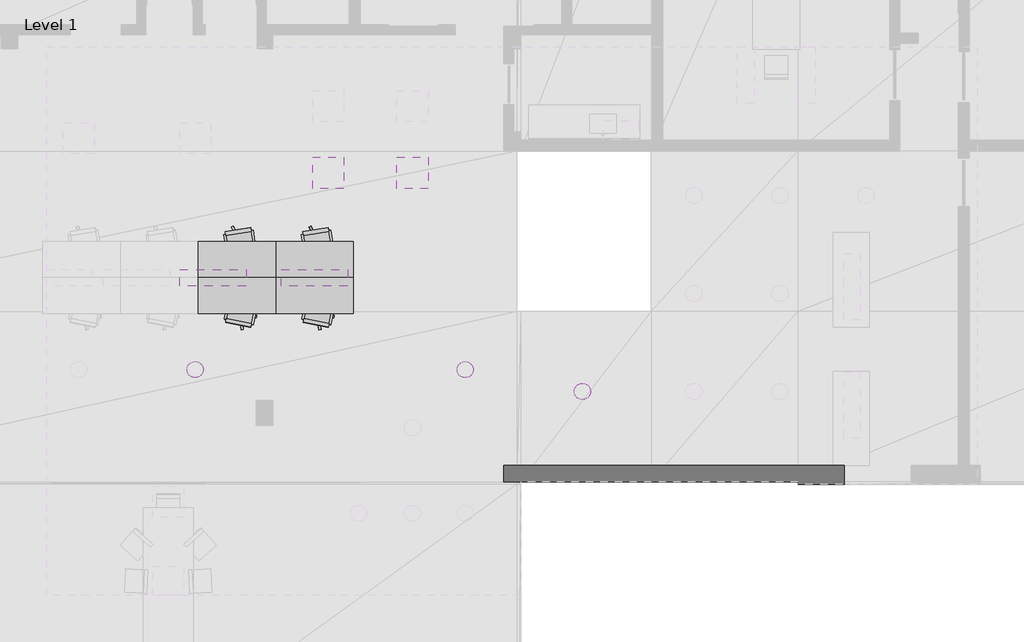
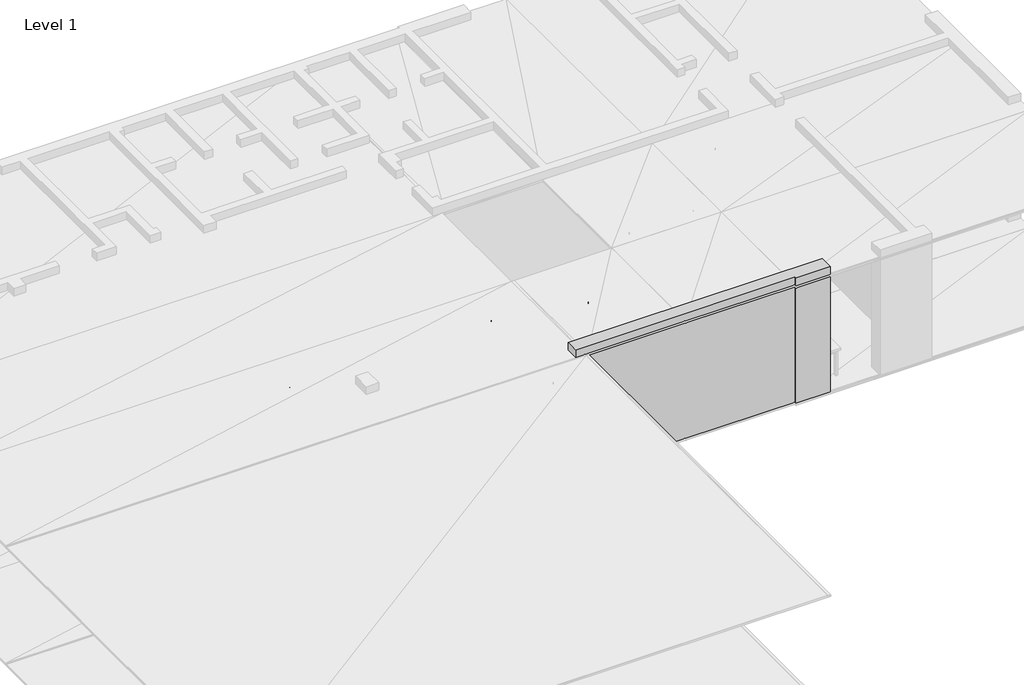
# One storey, part 9 of 14: 20 proxies.
"""IFC4 building model written with IfcOpenShell, lengths in millimetres."""

from ifc_helpers import new_model, si_unit, frame, origin, origin_with_axes, place, context, project, spatial, polyline, outline, extrude, element, save

model = new_model("IFC4")

# Units and contexts
model_context = context("Model", 3, world=origin())
ifc_project = project(units=[si_unit("LENGTHUNIT", "METRE", prefix="MILLI")], contexts=[model_context])

# Site, building, storey
site = spatial("IfcSite", under=ifc_project)
building = spatial("IfcBuilding", under=site)
storey = spatial("IfcBuildingStorey", under=building, Name="Level 1", Elevation=0.0)

# Proxies
placement = place(None, origin())
element("IfcBuildingElementProxy", 1, Name="Generic Models", at=placement, inside=storey, context=model_context, shape_type="SweptSolid", body=[
    extrude(outline(polyline([(9656.826019, 13859.130859), (9656.826019, 13209.131241), (8256.826401, 13209.131241), (8256.826401, 13859.130859), (9656.826019, 13859.130859)])), frame((0.0, 0.0, 709.999979), z_axis=(0.0, 0.0, 1.0), x_axis=(1.0, 0.0, 0.0)), (0.0, 0.0, 1.0), 40.000021),
])
element("IfcBuildingElementProxy", 2, Name="Generic Models", at=placement, inside=storey, context=model_context, shape_type="SweptSolid", body=[
    extrude(outline(polyline([(11056.825638, 13859.130859), (11056.825638, 13209.131241), (9656.826019, 13209.131241), (9656.826019, 13859.130859), (11056.825638, 13859.130859)])), frame((0.0, 0.0, 709.999979), z_axis=(0.0, 0.0, 1.0), x_axis=(1.0, 0.0, 0.0)), (0.0, 0.0, 1.0), 40.000021),
])
element("IfcBuildingElementProxy", 3, Name="Generic Models", at=placement, inside=storey, context=model_context, shape_type="SweptSolid", body=[
    extrude(outline(polyline([(9656.826019, 14509.131432), (9656.826019, 13859.130859), (8256.826401, 13859.130859), (8256.826401, 14509.131432), (9656.826019, 14509.131432)])), frame((0.0, 0.0, 709.999979), z_axis=(0.0, 0.0, 1.0), x_axis=(1.0, 0.0, 0.0)), (0.0, 0.0, 1.0), 40.000021),
])
element("IfcBuildingElementProxy", 4, Name="Generic Models", at=placement, inside=storey, context=model_context, shape_type="SweptSolid", body=[
    extrude(outline(polyline([(11056.825638, 14509.131432), (11056.825638, 13859.130859), (9656.826019, 13859.130859), (9656.826019, 14509.131432), (11056.825638, 14509.131432)])), frame((0.0, 0.0, 709.999979), z_axis=(0.0, 0.0, 1.0), x_axis=(1.0, 0.0, 0.0)), (0.0, 0.0, 1.0), 40.000021),
])
element("IfcBuildingElementProxy", 5, Name="Generic Models", at=placement, inside=storey, context=model_context, shape_type="SweptSolid", body=[
    extrude(outline(polyline([(19916.017532, 10470.000267), (19916.017532, 10130.000114), (19076.826096, 10130.000114), (19076.826096, 10170.000076), (13776.017189, 10170.000076), (13776.017189, 10470.000267), (19916.017532, 10470.000267)])), origin_with_axes(), (0.0, 0.0, 1.0), 3200.000048),
])
element("IfcBuildingElementProxy", 6, Name="Generic Models", at=placement, inside=storey, context=model_context, shape_type="SweptSolid", body=[
    extrude(outline(polyline([(9756.825447, 13709.131241), (9756.825447, 14009.130478), (10956.82621, 14009.130478), (10956.82621, 13709.131241), (9756.825447, 13709.131241)])), frame((0.0, 0.0, 2910.000086), z_axis=(0.0, 0.0, 1.0), x_axis=(1.0, 0.0, 0.0)), (0.0, 0.0, 1.0), 39.999962),
])
element("IfcBuildingElementProxy", 7, Name="Generic Models", at=placement, inside=storey, context=model_context, shape_type="SweptSolid", body=[
    extrude(outline(polyline([(7924.602985, 13709.131241), (7924.602985, 14009.130478), (9124.603271, 14009.130478), (9124.603271, 13709.131241), (7924.602985, 13709.131241)])), frame((0.0, 0.0, 2910.000086), z_axis=(0.0, 0.0, 1.0), x_axis=(1.0, 0.0, 0.0)), (0.0, 0.0, 1.0), 39.999962),
])
element("IfcBuildingElementProxy", 8, Name="Generic Models", at=placement, inside=storey, context=model_context, shape_type="SweptSolid", body=[
    extrude(outline(polyline([(10326.018333, 15470.383644), (10326.018333, 16030.384064), (10886.017799, 16030.384064), (10886.017799, 15470.383644), (10326.018333, 15470.383644)])), frame((0.0, 0.0, 2910.000086), z_axis=(0.0, 0.0, 1.0), x_axis=(1.0, 0.0, 0.0)), (0.0, 0.0, 1.0), 39.999962),
])
element("IfcBuildingElementProxy", 9, Name="Generic Models", at=placement, inside=storey, context=model_context, shape_type="SweptSolid", body=[
    extrude(outline(polyline([(11846.017838, 15470.383644), (11846.017838, 16030.384064), (12406.017303, 16030.384064), (12406.017303, 15470.383644), (11846.017838, 15470.383644)])), frame((0.0, 0.0, 2910.000086), z_axis=(0.0, 0.0, 1.0), x_axis=(1.0, 0.0, 0.0)), (0.0, 0.0, 1.0), 39.999962),
])
element("IfcBuildingElementProxy", 10, Name="Generic Models", at=placement, inside=storey, context=model_context, shape_type="SweptSolid", body=[
    extrude(outline(polyline([(15326.302528, 11748.607635), (15312.685013, 11723.13118), (15294.359207, 11700.800896), (15272.028923, 11682.47509), (15246.552467, 11668.857574), (15218.90831, 11660.471916), (15190.159798, 11657.640457), (15161.411285, 11660.471916), (15133.767128, 11668.857574), (15108.290672, 11682.47509), (15085.960388, 11700.800896), (15067.634583, 11723.13118), (15054.017067, 11748.607635), (15045.631409, 11776.251793), (15042.79995, 11805.000305), (15045.631409, 11833.748817), (15054.017067, 11861.392975), (15067.634583, 11886.869431), (15085.960388, 11909.199715), (15108.290672, 11927.52552), (15133.767128, 11941.143036), (15161.411285, 11949.528694), (15190.159798, 11952.360153), (15218.90831, 11949.528694), (15246.552467, 11941.143036), (15272.028923, 11927.52552), (15294.359207, 11909.199715), (15312.685013, 11886.869431), (15326.302528, 11861.392975), (15334.688187, 11833.748817), (15337.519646, 11805.000305), (15334.688187, 11776.251793), (15326.302528, 11748.607635)])), frame((0.0, 0.0, 2910.000086), z_axis=(0.0, 0.0, 1.0), x_axis=(1.0, 0.0, 0.0)), (0.0, 0.0, 1.0), 39.999962),
])
element("IfcBuildingElementProxy", 11, Name="Generic Models", at=placement, inside=storey, context=model_context, shape_type="SweptSolid", body=[
    extrude(outline(polyline([(13212.161064, 12143.173218), (13198.543549, 12117.696762), (13180.217743, 12095.366478), (13157.887459, 12077.040672), (13132.411003, 12063.423157), (13104.766846, 12055.037498), (13076.018333, 12052.206039), (13047.269821, 12055.037498), (13019.625664, 12063.423157), (12994.149208, 12077.040672), (12971.818924, 12095.366478), (12953.493118, 12117.696762), (12939.875603, 12143.173218), (12931.489944, 12170.817375), (12928.658485, 12199.565887), (12931.489944, 12228.3144), (12939.875603, 12255.958557), (12953.493118, 12281.435013), (12971.818924, 12303.765297), (12994.149208, 12322.091103), (13019.625664, 12335.708618), (13047.269821, 12344.094276), (13076.018333, 12346.925735), (13104.766846, 12344.094276), (13132.411003, 12335.708618), (13157.887459, 12322.091103), (13180.217743, 12303.765297), (13198.543549, 12281.435013), (13212.161064, 12255.958557), (13220.546722, 12228.3144), (13223.378181, 12199.565887), (13220.546722, 12170.817375), (13212.161064, 12143.173218)])), frame((0.0, 0.0, 2910.000086), z_axis=(0.0, 0.0, 1.0), x_axis=(1.0, 0.0, 0.0)), (0.0, 0.0, 1.0), 39.999962),
])
element("IfcBuildingElementProxy", 12, Name="Generic Models", at=placement, inside=storey, context=model_context, shape_type="SweptSolid", body=[
    extrude(outline(polyline([(8342.161179, 12143.173218), (8328.543663, 12117.696762), (8310.217857, 12095.366478), (8287.887573, 12077.040672), (8262.411118, 12063.423157), (8234.76696, 12055.037498), (8206.018448, 12052.206039), (8177.269936, 12055.037498), (8149.625778, 12063.423157), (8124.149323, 12077.040672), (8101.819038, 12095.366478), (8083.493233, 12117.696762), (8069.875717, 12143.173218), (8061.490059, 12170.817375), (8058.6586, 12199.565887), (8061.490059, 12228.3144), (8069.875717, 12255.958557), (8083.493233, 12281.435013), (8101.819038, 12303.765297), (8124.149323, 12322.091103), (8149.625778, 12335.708618), (8177.269936, 12344.094276), (8206.018448, 12346.925735), (8234.76696, 12344.094276), (8262.411118, 12335.708618), (8287.887573, 12322.091103), (8310.217857, 12303.765297), (8328.543663, 12281.435013), (8342.161179, 12255.958557), (8350.546837, 12228.3144), (8353.378296, 12199.565887), (8350.546837, 12170.817375), (8342.161179, 12143.173218)])), frame((0.0, 0.0, 2910.000086), z_axis=(0.0, 0.0, 1.0), x_axis=(1.0, 0.0, 0.0)), (0.0, 0.0, 1.0), 39.999962),
])
element("IfcBuildingElementProxy", 13, Name="Generic Models", at=placement, inside=storey, context=model_context, shape_type="SweptSolid", body=[
    extrude(outline(polyline([(9604.326248, 13284.13105), (9559.326172, 13284.13105), (9559.326172, 13784.13105), (9604.326248, 13784.13105), (9604.326248, 13284.13105)])), frame((0.0, 0.0, 639.999986), z_axis=(0.0, 0.0, 1.0), x_axis=(1.0, 0.0, 0.0)), (0.0, 0.0, 1.0), 69.999993),
    extrude(outline(polyline([(8354.326248, 13284.13105), (8309.326172, 13284.13105), (8309.326172, 13784.13105), (8354.326248, 13784.13105), (8354.326248, 13284.13105)])), frame((0.0, 0.0, 639.999986), z_axis=(0.0, 0.0, 1.0), x_axis=(1.0, 0.0, 0.0)), (0.0, 0.0, 1.0), 69.999993),
    extrude(outline(polyline([(8331.82621, 13761.631012), (8331.82621, 13806.631088), (9581.82621, 13806.631088), (9581.82621, 13761.631012), (8331.82621, 13761.631012)])), frame((0.0, 0.0, 639.999986), z_axis=(0.0, 0.0, 1.0), x_axis=(1.0, 0.0, 0.0)), (0.0, 0.0, 1.0), 69.999993),
    extrude(outline(polyline([(8331.82621, 13261.631012), (8331.82621, 13306.631088), (9581.82621, 13306.631088), (9581.82621, 13261.631012), (8331.82621, 13261.631012)])), frame((0.0, 0.0, 639.999986), z_axis=(0.0, 0.0, 1.0), x_axis=(1.0, 0.0, 0.0)), (0.0, 0.0, 1.0), 69.999993),
    extrude(outline(polyline([(9557.451248, 13759.756088), (9557.451248, 13808.506012), (9606.201172, 13808.506012), (9606.201172, 13759.756088), (9557.451248, 13759.756088)])), frame((0.0, 0.0, 50.000001), z_axis=(0.0, 0.0, 1.0), x_axis=(1.0, 0.0, 0.0)), (0.0, 0.0, 1.0), 659.999978),
    extrude(outline(polyline([(9557.451248, 13259.756088), (9557.451248, 13308.506012), (9606.201172, 13308.506012), (9606.201172, 13259.756088), (9557.451248, 13259.756088)])), frame((0.0, 0.0, 50.000001), z_axis=(0.0, 0.0, 1.0), x_axis=(1.0, 0.0, 0.0)), (0.0, 0.0, 1.0), 659.999978),
    extrude(outline(polyline([(8307.451248, 13759.756088), (8307.451248, 13808.506012), (8356.201172, 13808.506012), (8356.201172, 13759.756088), (8307.451248, 13759.756088)])), frame((0.0, 0.0, 50.000001), z_axis=(0.0, 0.0, 1.0), x_axis=(1.0, 0.0, 0.0)), (0.0, 0.0, 1.0), 659.999978),
    extrude(outline(polyline([(8307.451248, 13259.756088), (8307.451248, 13308.506012), (8356.201172, 13308.506012), (8356.201172, 13259.756088), (8307.451248, 13259.756088)])), frame((0.0, 0.0, 50.000001), z_axis=(0.0, 0.0, 1.0), x_axis=(1.0, 0.0, 0.0)), (0.0, 0.0, 1.0), 659.999978),
])
element("IfcBuildingElementProxy", 14, Name="Generic Models", at=placement, inside=storey, context=model_context, shape_type="SweptSolid", body=[
    extrude(outline(polyline([(11004.325867, 13284.13105), (10959.32579, 13284.13105), (10959.32579, 13784.13105), (11004.325867, 13784.13105), (11004.325867, 13284.13105)])), frame((0.0, 0.0, 639.999986), z_axis=(0.0, 0.0, 1.0), x_axis=(1.0, 0.0, 0.0)), (0.0, 0.0, 1.0), 69.999993),
    extrude(outline(polyline([(9754.325867, 13284.13105), (9709.32579, 13284.13105), (9709.32579, 13784.13105), (9754.325867, 13784.13105), (9754.325867, 13284.13105)])), frame((0.0, 0.0, 639.999986), z_axis=(0.0, 0.0, 1.0), x_axis=(1.0, 0.0, 0.0)), (0.0, 0.0, 1.0), 69.999993),
    extrude(outline(polyline([(9731.825829, 13761.631012), (9731.825829, 13806.631088), (10981.825829, 13806.631088), (10981.825829, 13761.631012), (9731.825829, 13761.631012)])), frame((0.0, 0.0, 639.999986), z_axis=(0.0, 0.0, 1.0), x_axis=(1.0, 0.0, 0.0)), (0.0, 0.0, 1.0), 69.999993),
    extrude(outline(polyline([(9731.825829, 13261.631012), (9731.825829, 13306.631088), (10981.825829, 13306.631088), (10981.825829, 13261.631012), (9731.825829, 13261.631012)])), frame((0.0, 0.0, 639.999986), z_axis=(0.0, 0.0, 1.0), x_axis=(1.0, 0.0, 0.0)), (0.0, 0.0, 1.0), 69.999993),
    extrude(outline(polyline([(10957.450867, 13759.756088), (10957.450867, 13808.506012), (11006.20079, 13808.506012), (11006.20079, 13759.756088), (10957.450867, 13759.756088)])), frame((0.0, 0.0, 50.000001), z_axis=(0.0, 0.0, 1.0), x_axis=(1.0, 0.0, 0.0)), (0.0, 0.0, 1.0), 659.999978),
    extrude(outline(polyline([(10957.450867, 13259.756088), (10957.450867, 13308.506012), (11006.20079, 13308.506012), (11006.20079, 13259.756088), (10957.450867, 13259.756088)])), frame((0.0, 0.0, 50.000001), z_axis=(0.0, 0.0, 1.0), x_axis=(1.0, 0.0, 0.0)), (0.0, 0.0, 1.0), 659.999978),
    extrude(outline(polyline([(9707.450867, 13759.756088), (9707.450867, 13808.506012), (9756.20079, 13808.506012), (9756.20079, 13759.756088), (9707.450867, 13759.756088)])), frame((0.0, 0.0, 50.000001), z_axis=(0.0, 0.0, 1.0), x_axis=(1.0, 0.0, 0.0)), (0.0, 0.0, 1.0), 659.999978),
    extrude(outline(polyline([(9707.450867, 13259.756088), (9707.450867, 13308.506012), (9756.20079, 13308.506012), (9756.20079, 13259.756088), (9707.450867, 13259.756088)])), frame((0.0, 0.0, 50.000001), z_axis=(0.0, 0.0, 1.0), x_axis=(1.0, 0.0, 0.0)), (0.0, 0.0, 1.0), 659.999978),
])
element("IfcBuildingElementProxy", 15, Name="Generic Models", at=placement, inside=storey, context=model_context, shape_type="SweptSolid", body=[
    extrude(outline(polyline([(9604.326248, 13934.130669), (9559.326172, 13934.130669), (9559.326172, 14434.131622), (9604.326248, 14434.131622), (9604.326248, 13934.130669)])), frame((0.0, 0.0, 639.999986), z_axis=(0.0, 0.0, 1.0), x_axis=(1.0, 0.0, 0.0)), (0.0, 0.0, 1.0), 69.999993),
    extrude(outline(polyline([(8354.326248, 13934.130669), (8309.326172, 13934.130669), (8309.326172, 14434.131622), (8354.326248, 14434.131622), (8354.326248, 13934.130669)])), frame((0.0, 0.0, 639.999986), z_axis=(0.0, 0.0, 1.0), x_axis=(1.0, 0.0, 0.0)), (0.0, 0.0, 1.0), 69.999993),
    extrude(outline(polyline([(8331.82621, 14411.631584), (8331.82621, 14456.63166), (9581.82621, 14456.63166), (9581.82621, 14411.631584), (8331.82621, 14411.631584)])), frame((0.0, 0.0, 639.999986), z_axis=(0.0, 0.0, 1.0), x_axis=(1.0, 0.0, 0.0)), (0.0, 0.0, 1.0), 69.999993),
    extrude(outline(polyline([(8331.82621, 13911.63063), (8331.82621, 13956.630707), (9581.82621, 13956.630707), (9581.82621, 13911.63063), (8331.82621, 13911.63063)])), frame((0.0, 0.0, 639.999986), z_axis=(0.0, 0.0, 1.0), x_axis=(1.0, 0.0, 0.0)), (0.0, 0.0, 1.0), 69.999993),
    extrude(outline(polyline([(9557.451248, 14409.75666), (9557.451248, 14458.506584), (9606.201172, 14458.506584), (9606.201172, 14409.75666), (9557.451248, 14409.75666)])), frame((0.0, 0.0, 50.000001), z_axis=(0.0, 0.0, 1.0), x_axis=(1.0, 0.0, 0.0)), (0.0, 0.0, 1.0), 659.999978),
    extrude(outline(polyline([(9557.451248, 13909.755707), (9557.451248, 13958.50563), (9606.201172, 13958.50563), (9606.201172, 13909.755707), (9557.451248, 13909.755707)])), frame((0.0, 0.0, 50.000001), z_axis=(0.0, 0.0, 1.0), x_axis=(1.0, 0.0, 0.0)), (0.0, 0.0, 1.0), 659.999978),
    extrude(outline(polyline([(8307.451248, 14409.75666), (8307.451248, 14458.506584), (8356.201172, 14458.506584), (8356.201172, 14409.75666), (8307.451248, 14409.75666)])), frame((0.0, 0.0, 50.000001), z_axis=(0.0, 0.0, 1.0), x_axis=(1.0, 0.0, 0.0)), (0.0, 0.0, 1.0), 659.999978),
    extrude(outline(polyline([(8307.451248, 13909.755707), (8307.451248, 13958.50563), (8356.201172, 13958.50563), (8356.201172, 13909.755707), (8307.451248, 13909.755707)])), frame((0.0, 0.0, 50.000001), z_axis=(0.0, 0.0, 1.0), x_axis=(1.0, 0.0, 0.0)), (0.0, 0.0, 1.0), 659.999978),
])
element("IfcBuildingElementProxy", 16, Name="Generic Models", at=placement, inside=storey, context=model_context, shape_type="SweptSolid", body=[
    extrude(outline(polyline([(11004.325867, 13934.130669), (10959.32579, 13934.130669), (10959.32579, 14434.131622), (11004.325867, 14434.131622), (11004.325867, 13934.130669)])), frame((0.0, 0.0, 639.999986), z_axis=(0.0, 0.0, 1.0), x_axis=(1.0, 0.0, 0.0)), (0.0, 0.0, 1.0), 69.999993),
    extrude(outline(polyline([(9754.325867, 13934.130669), (9709.32579, 13934.130669), (9709.32579, 14434.131622), (9754.325867, 14434.131622), (9754.325867, 13934.130669)])), frame((0.0, 0.0, 639.999986), z_axis=(0.0, 0.0, 1.0), x_axis=(1.0, 0.0, 0.0)), (0.0, 0.0, 1.0), 69.999993),
    extrude(outline(polyline([(9731.825829, 14411.631584), (9731.825829, 14456.63166), (10981.825829, 14456.63166), (10981.825829, 14411.631584), (9731.825829, 14411.631584)])), frame((0.0, 0.0, 639.999986), z_axis=(0.0, 0.0, 1.0), x_axis=(1.0, 0.0, 0.0)), (0.0, 0.0, 1.0), 69.999993),
    extrude(outline(polyline([(9731.825829, 13911.63063), (9731.825829, 13956.630707), (10981.825829, 13956.630707), (10981.825829, 13911.63063), (9731.825829, 13911.63063)])), frame((0.0, 0.0, 639.999986), z_axis=(0.0, 0.0, 1.0), x_axis=(1.0, 0.0, 0.0)), (0.0, 0.0, 1.0), 69.999993),
    extrude(outline(polyline([(10957.450867, 14409.75666), (10957.450867, 14458.506584), (11006.20079, 14458.506584), (11006.20079, 14409.75666), (10957.450867, 14409.75666)])), frame((0.0, 0.0, 50.000001), z_axis=(0.0, 0.0, 1.0), x_axis=(1.0, 0.0, 0.0)), (0.0, 0.0, 1.0), 659.999978),
    extrude(outline(polyline([(10957.450867, 13909.755707), (10957.450867, 13958.50563), (11006.20079, 13958.50563), (11006.20079, 13909.755707), (10957.450867, 13909.755707)])), frame((0.0, 0.0, 50.000001), z_axis=(0.0, 0.0, 1.0), x_axis=(1.0, 0.0, 0.0)), (0.0, 0.0, 1.0), 659.999978),
    extrude(outline(polyline([(9707.450867, 14409.75666), (9707.450867, 14458.506584), (9756.20079, 14458.506584), (9756.20079, 14409.75666), (9707.450867, 14409.75666)])), frame((0.0, 0.0, 50.000001), z_axis=(0.0, 0.0, 1.0), x_axis=(1.0, 0.0, 0.0)), (0.0, 0.0, 1.0), 659.999978),
    extrude(outline(polyline([(9707.450867, 13909.755707), (9707.450867, 13958.50563), (9756.20079, 13958.50563), (9756.20079, 13909.755707), (9707.450867, 13909.755707)])), frame((0.0, 0.0, 50.000001), z_axis=(0.0, 0.0, 1.0), x_axis=(1.0, 0.0, 0.0)), (0.0, 0.0, 1.0), 659.999978),
])
element("IfcBuildingElementProxy", 17, Name="Generic Models", at=placement, inside=storey, context=model_context, shape_type="SweptSolid", body=[
    extrude(outline(polyline([(8777.145386, 14484.13372), (8781.773567, 14454.493523), (8752.132416, 14449.864388), (8747.504234, 14479.505539), (8777.145386, 14484.13372)])), frame((0.0, 0.0, 439.999998), z_axis=(0.0, 0.0, 1.0), x_axis=(1.0, 0.0, 0.0)), (0.0, 0.0, 1.0), 199.999988),
    extrude(outline(polyline([(8755.702019, 14637.663841), (8808.156967, 14301.734924), (8773.575783, 14296.33522), (8721.121788, 14632.264137), (8755.702019, 14637.663841)])), frame((0.0, 0.0, 612.500012), z_axis=(0.0, 0.0, 1.0), x_axis=(1.0, 0.0, 0.0)), (0.0, 0.0, 1.0), 34.999967),
    extrude(outline(polyline([(8817.224503, 14664.982796), (8821.081161, 14640.281677), (8796.380997, 14636.425018), (8792.523384, 14661.125183), (8817.224503, 14664.982796)])), frame((0.0, 0.0, 460.000008), z_axis=(0.0, 0.0, 1.0), x_axis=(1.0, 0.0, 0.0)), (0.0, 0.0, 1.0), 400.000006),
    extrude(outline(polyline([(9271.159172, 14561.272621), (9275.787354, 14531.63147), (9246.146202, 14527.003288), (9241.518021, 14556.64444), (9271.159172, 14561.272621)])), frame((0.0, 0.0, 439.999998), z_axis=(0.0, 0.0, 1.0), x_axis=(1.0, 0.0, 0.0)), (0.0, 0.0, 1.0), 199.999988),
    extrude(outline(polyline([(9249.715805, 14714.802742), (9302.170753, 14378.872871), (9267.589569, 14373.473167), (9215.135574, 14709.403038), (9249.715805, 14714.802742)])), frame((0.0, 0.0, 612.500012), z_axis=(0.0, 0.0, 1.0), x_axis=(1.0, 0.0, 0.0)), (0.0, 0.0, 1.0), 34.999967),
    extrude(outline(polyline([(9172.914505, 14720.521927), (9176.771164, 14695.821762), (9152.070045, 14691.964149), (9148.213387, 14716.665268), (9172.914505, 14720.521927)])), frame((0.0, 0.0, 460.000008), z_axis=(0.0, 0.0, 1.0), x_axis=(1.0, 0.0, 0.0)), (0.0, 0.0, 1.0), 400.000006),
    extrude(outline(polyline([(9204.951286, 14758.418083), (9215.750694, 14689.256668), (8761.258125, 14618.288994), (8750.458717, 14687.451363), (9204.951286, 14758.418083)])), frame((0.0, 0.0, 460.000008), z_axis=(0.0, 0.0, 1.0), x_axis=(1.0, 0.0, 0.0)), (0.0, 0.0, 1.0), 479.99999),
    extrude(outline(polyline([(9204.179764, 14763.35907), (9268.976212, 14348.386765), (8814.483643, 14277.41909), (8749.687195, 14692.391396), (9204.179764, 14763.35907)])), frame((0.0, 0.0, 400.000006), z_axis=(0.0, 0.0, 1.0), x_axis=(1.0, 0.0, 0.0)), (0.0, 0.0, 1.0), 69.999993),
    extrude(outline(polyline([(9026.831627, 14490.077972), (9009.331703, 14485.388756), (8991.831779, 14490.077972), (8979.021072, 14502.88868), (8974.331856, 14520.389557), (8979.021072, 14537.889481), (8991.831779, 14550.700188), (9009.331703, 14555.389404), (9026.831627, 14550.700188), (9039.642334, 14537.889481), (9044.331551, 14520.389557), (9039.642334, 14502.88868), (9026.831627, 14490.077972)])), frame((0.0, 0.0, 115.000002), z_axis=(0.0, 0.0, 1.0), x_axis=(1.0, 0.0, 0.0)), (0.0, 0.0, 1.0), 280.000009),
    extrude(outline(polyline([(8922.040939, 14742.408752), (8881.901741, 14722.066879), (8857.039452, 14771.126747), (8897.17865, 14791.46862), (8922.040939, 14742.408752)])), frame((0.0, 0.0, 35.0), z_axis=(0.0, 0.0, 1.0), x_axis=(1.0, 0.0, 0.0)), (0.0, 0.0, 1.0), 59.999999),
    extrude(outline(polyline([(9027.201653, 14523.839951), (8995.98217, 14508.018494), (8860.368729, 14775.616646), (8891.589165, 14791.439056), (9027.201653, 14523.839951)])), frame((0.0, 0.0, 82.500003), z_axis=(0.0, 0.0, 1.0), x_axis=(1.0, 0.0, 0.0)), (0.0, 0.0, 1.0), 34.999997),
    extrude(outline(polyline([(9193.511009, 14672.01519), (9161.761284, 14703.904152), (9200.737, 14742.710114), (9232.486725, 14710.821152), (9193.511009, 14672.01519)])), frame((0.0, 0.0, 35.0), z_axis=(0.0, 0.0, 1.0), x_axis=(1.0, 0.0, 0.0)), (0.0, 0.0, 1.0), 59.999999),
    extrude(outline(polyline([(9018.136024, 14504.460335), (8993.441582, 14529.262543), (9206.035614, 14740.930557), (9230.73101, 14716.128349), (9018.136024, 14504.460335)])), frame((0.0, 0.0, 82.500003), z_axis=(0.0, 0.0, 1.0), x_axis=(1.0, 0.0, 0.0)), (0.0, 0.0, 1.0), 34.999997),
    extrude(outline(polyline([(9210.451126, 14392.079353), (9230.968475, 14432.12986), (9279.918671, 14407.052994), (9259.402275, 14367.002487), (9210.451126, 14392.079353)])), frame((0.0, 0.0, 35.0), z_axis=(0.0, 0.0, 1.0), x_axis=(1.0, 0.0, 0.0)), (0.0, 0.0, 1.0), 59.999999),
    extrude(outline(polyline([(8996.902466, 14507.09343), (9012.860298, 14538.244247), (9279.864311, 14401.463509), (9263.906479, 14370.312691), (8996.902466, 14507.09343)])), frame((0.0, 0.0, 82.500003), z_axis=(0.0, 0.0, 1.0), x_axis=(1.0, 0.0, 0.0)), (0.0, 0.0, 1.0), 34.999997),
    extrude(outline(polyline([(8949.451447, 14289.463043), (8993.881226, 14282.326698), (8985.15892, 14228.022575), (8940.728188, 14235.15892), (8949.451447, 14289.463043)])), frame((0.0, 0.0, 35.0), z_axis=(0.0, 0.0, 1.0), x_axis=(1.0, 0.0, 0.0)), (0.0, 0.0, 1.0), 59.999999),
    extrude(outline(polyline([(8992.846489, 14528.100967), (9027.402878, 14522.550583), (8979.825974, 14226.34697), (8945.268631, 14231.898308), (8992.846489, 14528.100967)])), frame((0.0, 0.0, 82.500003), z_axis=(0.0, 0.0, 1.0), x_axis=(1.0, 0.0, 0.0)), (0.0, 0.0, 1.0), 34.999997),
    extrude(outline(polyline([(8771.203995, 14505.978584), (8778.146744, 14461.517334), (8723.804474, 14453.032494), (8716.862679, 14497.493744), (8771.203995, 14505.978584)])), frame((0.0, 0.0, 35.0), z_axis=(0.0, 0.0, 1.0), x_axis=(1.0, 0.0, 0.0)), (0.0, 0.0, 1.0), 59.999999),
    extrude(outline(polyline([(9011.571884, 14538.451195), (9016.971588, 14503.87001), (8720.562935, 14457.587242), (8715.163231, 14492.167473), (9011.571884, 14538.451195)])), frame((0.0, 0.0, 82.500003), z_axis=(0.0, 0.0, 1.0), x_axis=(1.0, 0.0, 0.0)), (0.0, 0.0, 1.0), 34.999997),
])
element("IfcBuildingElementProxy", 18, Name="Generic Models", at=placement, inside=storey, context=model_context, shape_type="SweptSolid", body=[
    extrude(outline(polyline([(9253.33786, 13164.08062), (9259.376526, 13193.46714), (9288.762093, 13187.428474), (9282.723427, 13158.041954), (9253.33786, 13164.08062)])), frame((0.0, 0.0, 439.999998), z_axis=(0.0, 0.0, 1.0), x_axis=(1.0, 0.0, 0.0)), (0.0, 0.0, 1.0), 199.999988),
    extrude(outline(polyline([(9219.690323, 13012.756348), (9288.125992, 13345.797539), (9322.410583, 13338.752747), (9253.973961, 13005.711555), (9219.690323, 13012.756348)])), frame((0.0, 0.0, 612.500012), z_axis=(0.0, 0.0, 1.0), x_axis=(1.0, 0.0, 0.0)), (0.0, 0.0, 1.0), 34.999967),
    extrude(outline(polyline([(9152.498245, 13008.69751), (9157.529831, 13033.185959), (9182.01828, 13028.154373), (9176.986694, 13003.665924), (9152.498245, 13008.69751)])), frame((0.0, 0.0, 460.000008), z_axis=(0.0, 0.0, 1.0), x_axis=(1.0, 0.0, 0.0)), (0.0, 0.0, 1.0), 400.000006),
    extrude(outline(polyline([(8763.571739, 13264.722824), (8769.609451, 13294.108391), (8798.995972, 13288.069725), (8792.957306, 13258.684158), (8763.571739, 13264.722824)])), frame((0.0, 0.0, 439.999998), z_axis=(0.0, 0.0, 1.0), x_axis=(1.0, 0.0, 0.0)), (0.0, 0.0, 1.0), 199.999988),
    extrude(outline(polyline([(8729.923248, 13113.398552), (8798.359871, 13446.439743), (8832.643509, 13439.393997), (8764.206886, 13106.352806), (8729.923248, 13113.398552)])), frame((0.0, 0.0, 612.500012), z_axis=(0.0, 0.0, 1.0), x_axis=(1.0, 0.0, 0.0)), (0.0, 0.0, 1.0), 34.999967),
    extrude(outline(polyline([(8799.865723, 13081.159592), (8804.898262, 13105.648041), (8829.386711, 13100.616455), (8824.354172, 13076.128006), (8799.865723, 13081.159592)])), frame((0.0, 0.0, 460.000008), z_axis=(0.0, 0.0, 1.0), x_axis=(1.0, 0.0, 0.0)), (0.0, 0.0, 1.0), 400.000006),
    extrude(outline(polyline([(8756.591797, 13056.873322), (8770.681381, 13125.440598), (9221.266747, 13032.850266), (9207.177162, 12964.28299), (8756.591797, 13056.873322)])), frame((0.0, 0.0, 460.000008), z_axis=(0.0, 0.0, 1.0), x_axis=(1.0, 0.0, 0.0)), (0.0, 0.0, 1.0), 479.99999),
    extrude(outline(polyline([(8755.58567, 13051.97525), (8840.12413, 13463.37986), (9290.709496, 13370.789528), (9206.171036, 12959.384918), (8755.58567, 13051.97525)])), frame((0.0, 0.0, 400.000006), z_axis=(0.0, 0.0, 1.0), x_axis=(1.0, 0.0, 0.0)), (0.0, 0.0, 1.0), 69.999993),
    extrude(outline(polyline([(9040.647507, 13181.071281), (9023.147583, 13176.382065), (9005.647659, 13181.071281), (8992.836952, 13193.881989), (8988.147736, 13211.381912), (8992.836952, 13228.88279), (9005.647659, 13241.693497), (9023.147583, 13246.382713), (9040.647507, 13241.693497), (9053.458214, 13228.88279), (9058.14743, 13211.381912), (9053.458214, 13193.881989), (9040.647507, 13181.071281)])), frame((0.0, 0.0, 115.000002), z_axis=(0.0, 0.0, 1.0), x_axis=(1.0, 0.0, 0.0)), (0.0, 0.0, 1.0), 280.000009),
    extrude(outline(polyline([(9027.211189, 12972.853661), (9071.931839, 12977.860451), (9078.051567, 12923.201561), (9033.330917, 12918.194771), (9027.211189, 12972.853661)])), frame((0.0, 0.0, 35.0), z_axis=(0.0, 0.0, 1.0), x_axis=(1.0, 0.0, 0.0)), (0.0, 0.0, 1.0), 59.999999),
    extrude(outline(polyline([(9005.200386, 13214.404106), (9039.982796, 13218.297958), (9073.360443, 12920.161247), (9038.578033, 12916.266441), (9005.200386, 13214.404106)])), frame((0.0, 0.0, 82.500003), z_axis=(0.0, 0.0, 1.0), x_axis=(1.0, 0.0, 0.0)), (0.0, 0.0, 1.0), 34.999997),
    extrude(outline(polyline([(8797.549248, 13133.808136), (8816.130638, 13092.823029), (8766.037941, 13070.113182), (8747.456551, 13111.097336), (8797.549248, 13133.808136)])), frame((0.0, 0.0, 35.0), z_axis=(0.0, 0.0, 1.0), x_axis=(1.0, 0.0, 0.0)), (0.0, 0.0, 1.0), 59.999999),
    extrude(outline(polyline([(9020.475388, 13229.385376), (9034.927368, 13197.508812), (8761.695862, 13073.634148), (8747.243881, 13105.511665), (9020.475388, 13229.385376)])), frame((0.0, 0.0, 82.500003), z_axis=(0.0, 0.0, 1.0), x_axis=(1.0, 0.0, 0.0)), (0.0, 0.0, 1.0), 34.999997),
    extrude(outline(polyline([(8879.655838, 13401.967049), (8846.419334, 13371.630669), (8809.341431, 13412.25338), (8842.577934, 13442.590714), (8879.655838, 13401.967049)])), frame((0.0, 0.0, 35.0), z_axis=(0.0, 0.0, 1.0), x_axis=(1.0, 0.0, 0.0)), (0.0, 0.0, 1.0), 59.999999),
    extrude(outline(polyline([(9039.44397, 13219.48719), (9013.59272, 13195.89138), (8811.348915, 13417.470932), (8837.199211, 13441.065788), (9039.44397, 13219.48719)])), frame((0.0, 0.0, 82.500003), z_axis=(0.0, 0.0, 1.0), x_axis=(1.0, 0.0, 0.0)), (0.0, 0.0, 1.0), 34.999997),
    extrude(outline(polyline([(9160.063744, 13406.744957), (9120.941162, 13428.980827), (9148.118019, 13476.797104), (9187.240601, 13454.561234), (9160.063744, 13406.744957)])), frame((0.0, 0.0, 35.0), z_axis=(0.0, 0.0, 1.0), x_axis=(1.0, 0.0, 0.0)), (0.0, 0.0, 1.0), 59.999999),
    extrude(outline(polyline([(9035.891533, 13198.3881), (9005.462646, 13215.682983), (9153.699875, 13476.499557), (9184.128761, 13459.205627), (9035.891533, 13198.3881)])), frame((0.0, 0.0, 82.500003), z_axis=(0.0, 0.0, 1.0), x_axis=(1.0, 0.0, 0.0)), (0.0, 0.0, 1.0), 34.999997),
    extrude(outline(polyline([(9251.257896, 13141.537666), (9260.315895, 13185.617447), (9314.189911, 13174.546242), (9305.131912, 13130.467415), (9251.257896, 13141.537666)])), frame((0.0, 0.0, 35.0), z_axis=(0.0, 0.0, 1.0), x_axis=(1.0, 0.0, 0.0)), (0.0, 0.0, 1.0), 59.999999),
    extrude(outline(polyline([(9014.727592, 13195.246696), (9021.772385, 13229.530334), (9315.631866, 13169.145584), (9308.587074, 13134.861946), (9014.727592, 13195.246696)])), frame((0.0, 0.0, 82.500003), z_axis=(0.0, 0.0, 1.0), x_axis=(1.0, 0.0, 0.0)), (0.0, 0.0, 1.0), 34.999997),
])
element("IfcBuildingElementProxy", 19, Name="Generic Models", at=placement, inside=storey, context=model_context, shape_type="SweptSolid", body=[
    extrude(outline(polyline([(10177.145004, 14484.13372), (10181.773186, 14454.493523), (10152.132034, 14449.864388), (10147.503853, 14479.505539), (10177.145004, 14484.13372)])), frame((0.0, 0.0, 439.999998), z_axis=(0.0, 0.0, 1.0), x_axis=(1.0, 0.0, 0.0)), (0.0, 0.0, 1.0), 199.999988),
    extrude(outline(polyline([(10155.701637, 14637.663841), (10208.156586, 14301.734924), (10173.575401, 14296.33522), (10121.121407, 14632.264137), (10155.701637, 14637.663841)])), frame((0.0, 0.0, 612.500012), z_axis=(0.0, 0.0, 1.0), x_axis=(1.0, 0.0, 0.0)), (0.0, 0.0, 1.0), 34.999967),
    extrude(outline(polyline([(10217.224121, 14664.982796), (10221.08078, 14640.281677), (10196.380615, 14636.425018), (10192.523003, 14661.125183), (10217.224121, 14664.982796)])), frame((0.0, 0.0, 460.000008), z_axis=(0.0, 0.0, 1.0), x_axis=(1.0, 0.0, 0.0)), (0.0, 0.0, 1.0), 400.000006),
    extrude(outline(polyline([(10671.158791, 14561.272621), (10675.786972, 14531.63147), (10646.145821, 14527.003288), (10641.517639, 14556.64444), (10671.158791, 14561.272621)])), frame((0.0, 0.0, 439.999998), z_axis=(0.0, 0.0, 1.0), x_axis=(1.0, 0.0, 0.0)), (0.0, 0.0, 1.0), 199.999988),
    extrude(outline(polyline([(10649.715424, 14714.802742), (10702.170372, 14378.872871), (10667.589188, 14373.473167), (10615.135193, 14709.403038), (10649.715424, 14714.802742)])), frame((0.0, 0.0, 612.500012), z_axis=(0.0, 0.0, 1.0), x_axis=(1.0, 0.0, 0.0)), (0.0, 0.0, 1.0), 34.999967),
    extrude(outline(polyline([(10572.914124, 14720.521927), (10576.770782, 14695.821762), (10552.069664, 14691.964149), (10548.213005, 14716.665268), (10572.914124, 14720.521927)])), frame((0.0, 0.0, 460.000008), z_axis=(0.0, 0.0, 1.0), x_axis=(1.0, 0.0, 0.0)), (0.0, 0.0, 1.0), 400.000006),
    extrude(outline(polyline([(10604.950905, 14758.418083), (10615.750313, 14689.256668), (10161.257744, 14618.288994), (10150.458336, 14687.451363), (10604.950905, 14758.418083)])), frame((0.0, 0.0, 460.000008), z_axis=(0.0, 0.0, 1.0), x_axis=(1.0, 0.0, 0.0)), (0.0, 0.0, 1.0), 479.99999),
    extrude(outline(polyline([(10604.179382, 14763.35907), (10668.97583, 14348.386765), (10214.483261, 14277.41909), (10149.686813, 14692.391396), (10604.179382, 14763.35907)])), frame((0.0, 0.0, 400.000006), z_axis=(0.0, 0.0, 1.0), x_axis=(1.0, 0.0, 0.0)), (0.0, 0.0, 1.0), 69.999993),
    extrude(outline(polyline([(10426.831245, 14490.077972), (10409.331322, 14485.388756), (10391.831398, 14490.077972), (10379.020691, 14502.88868), (10374.331474, 14520.389557), (10379.020691, 14537.889481), (10391.831398, 14550.700188), (10409.331322, 14555.389404), (10426.831245, 14550.700188), (10439.641953, 14537.889481), (10444.331169, 14520.389557), (10439.641953, 14502.88868), (10426.831245, 14490.077972)])), frame((0.0, 0.0, 115.000002), z_axis=(0.0, 0.0, 1.0), x_axis=(1.0, 0.0, 0.0)), (0.0, 0.0, 1.0), 280.000009),
    extrude(outline(polyline([(10322.040558, 14742.408752), (10281.90136, 14722.066879), (10257.03907, 14771.126747), (10297.178268, 14791.46862), (10322.040558, 14742.408752)])), frame((0.0, 0.0, 35.0), z_axis=(0.0, 0.0, 1.0), x_axis=(1.0, 0.0, 0.0)), (0.0, 0.0, 1.0), 59.999999),
    extrude(outline(polyline([(10427.201271, 14523.839951), (10395.981789, 14508.018494), (10260.368347, 14775.616646), (10291.588783, 14791.439056), (10427.201271, 14523.839951)])), frame((0.0, 0.0, 82.500003), z_axis=(0.0, 0.0, 1.0), x_axis=(1.0, 0.0, 0.0)), (0.0, 0.0, 1.0), 34.999997),
    extrude(outline(polyline([(10593.510628, 14672.01519), (10561.760902, 14703.904152), (10600.736618, 14742.710114), (10632.486343, 14710.821152), (10593.510628, 14672.01519)])), frame((0.0, 0.0, 35.0), z_axis=(0.0, 0.0, 1.0), x_axis=(1.0, 0.0, 0.0)), (0.0, 0.0, 1.0), 59.999999),
    extrude(outline(polyline([(10418.135643, 14504.460335), (10393.4412, 14529.262543), (10606.035233, 14740.930557), (10630.730629, 14716.128349), (10418.135643, 14504.460335)])), frame((0.0, 0.0, 82.500003), z_axis=(0.0, 0.0, 1.0), x_axis=(1.0, 0.0, 0.0)), (0.0, 0.0, 1.0), 34.999997),
    extrude(outline(polyline([(10610.450745, 14392.079353), (10630.968094, 14432.12986), (10679.918289, 14407.052994), (10659.401894, 14367.002487), (10610.450745, 14392.079353)])), frame((0.0, 0.0, 35.0), z_axis=(0.0, 0.0, 1.0), x_axis=(1.0, 0.0, 0.0)), (0.0, 0.0, 1.0), 59.999999),
    extrude(outline(polyline([(10396.902084, 14507.09343), (10412.859917, 14538.244247), (10679.86393, 14401.463509), (10663.906097, 14370.312691), (10396.902084, 14507.09343)])), frame((0.0, 0.0, 82.500003), z_axis=(0.0, 0.0, 1.0), x_axis=(1.0, 0.0, 0.0)), (0.0, 0.0, 1.0), 34.999997),
    extrude(outline(polyline([(10349.451065, 14289.463043), (10393.880844, 14282.326698), (10385.158539, 14228.022575), (10340.727806, 14235.15892), (10349.451065, 14289.463043)])), frame((0.0, 0.0, 35.0), z_axis=(0.0, 0.0, 1.0), x_axis=(1.0, 0.0, 0.0)), (0.0, 0.0, 1.0), 59.999999),
    extrude(outline(polyline([(10392.846107, 14528.100967), (10427.402496, 14522.550583), (10379.825592, 14226.34697), (10345.26825, 14231.898308), (10392.846107, 14528.100967)])), frame((0.0, 0.0, 82.500003), z_axis=(0.0, 0.0, 1.0), x_axis=(1.0, 0.0, 0.0)), (0.0, 0.0, 1.0), 34.999997),
    extrude(outline(polyline([(10171.203613, 14505.978584), (10178.146362, 14461.517334), (10123.804092, 14453.032494), (10116.862297, 14497.493744), (10171.203613, 14505.978584)])), frame((0.0, 0.0, 35.0), z_axis=(0.0, 0.0, 1.0), x_axis=(1.0, 0.0, 0.0)), (0.0, 0.0, 1.0), 59.999999),
    extrude(outline(polyline([(10411.571503, 14538.451195), (10416.971207, 14503.87001), (10120.562553, 14457.587242), (10115.162849, 14492.167473), (10411.571503, 14538.451195)])), frame((0.0, 0.0, 82.500003), z_axis=(0.0, 0.0, 1.0), x_axis=(1.0, 0.0, 0.0)), (0.0, 0.0, 1.0), 34.999997),
])
element("IfcBuildingElementProxy", 20, Name="Generic Models", at=placement, inside=storey, context=model_context, shape_type="SweptSolid", body=[
    extrude(outline(polyline([(10653.337479, 13164.08062), (10659.376144, 13193.466187), (10688.762665, 13187.427521), (10682.723999, 13158.041954), (10653.337479, 13164.08062)])), frame((0.0, 0.0, 439.999998), z_axis=(0.0, 0.0, 1.0), x_axis=(1.0, 0.0, 0.0)), (0.0, 0.0, 1.0), 199.999988),
    extrude(outline(polyline([(10619.689941, 13012.756348), (10688.126564, 13345.797539), (10722.410202, 13338.751793), (10653.973579, 13005.711555), (10619.689941, 13012.756348)])), frame((0.0, 0.0, 612.500012), z_axis=(0.0, 0.0, 1.0), x_axis=(1.0, 0.0, 0.0)), (0.0, 0.0, 1.0), 34.999967),
    extrude(outline(polyline([(10552.497864, 13008.69751), (10557.529449, 13033.185959), (10582.017899, 13028.154373), (10576.986313, 13003.665924), (10552.497864, 13008.69751)])), frame((0.0, 0.0, 460.000008), z_axis=(0.0, 0.0, 1.0), x_axis=(1.0, 0.0, 0.0)), (0.0, 0.0, 1.0), 400.000006),
    extrude(outline(polyline([(10163.571358, 13264.722824), (10169.610023, 13294.108391), (10198.99559, 13288.070679), (10192.957878, 13258.684158), (10163.571358, 13264.722824)])), frame((0.0, 0.0, 439.999998), z_axis=(0.0, 0.0, 1.0), x_axis=(1.0, 0.0, 0.0)), (0.0, 0.0, 1.0), 199.999988),
    extrude(outline(polyline([(10129.92382, 13113.398552), (10198.360443, 13446.439743), (10232.644081, 13439.394951), (10164.207458, 13106.35376), (10129.92382, 13113.398552)])), frame((0.0, 0.0, 612.500012), z_axis=(0.0, 0.0, 1.0), x_axis=(1.0, 0.0, 0.0)), (0.0, 0.0, 1.0), 34.999967),
    extrude(outline(polyline([(10199.866295, 13081.160545), (10204.897881, 13105.648994), (10229.38633, 13100.616455), (10224.354744, 13076.128006), (10199.866295, 13081.160545)])), frame((0.0, 0.0, 460.000008), z_axis=(0.0, 0.0, 1.0), x_axis=(1.0, 0.0, 0.0)), (0.0, 0.0, 1.0), 400.000006),
    extrude(outline(polyline([(10156.591415, 13056.873322), (10170.681953, 13125.440598), (10621.266365, 13032.850266), (10607.176781, 12964.28299), (10156.591415, 13056.873322)])), frame((0.0, 0.0, 460.000008), z_axis=(0.0, 0.0, 1.0), x_axis=(1.0, 0.0, 0.0)), (0.0, 0.0, 1.0), 479.99999),
    extrude(outline(polyline([(10155.585289, 13051.976204), (10240.124702, 13463.37986), (10690.710068, 13370.788574), (10606.170654, 12959.384918), (10155.585289, 13051.976204)])), frame((0.0, 0.0, 400.000006), z_axis=(0.0, 0.0, 1.0), x_axis=(1.0, 0.0, 0.0)), (0.0, 0.0, 1.0), 69.999993),
    extrude(outline(polyline([(10440.648079, 13181.071281), (10423.147202, 13176.382065), (10405.647278, 13181.071281), (10392.836571, 13193.881989), (10388.147354, 13211.381912), (10392.836571, 13228.88279), (10405.647278, 13241.693497), (10423.147202, 13246.382713), (10440.648079, 13241.693497), (10453.458786, 13228.88279), (10458.148003, 13211.381912), (10453.458786, 13193.881989), (10440.648079, 13181.071281)])), frame((0.0, 0.0, 115.000002), z_axis=(0.0, 0.0, 1.0), x_axis=(1.0, 0.0, 0.0)), (0.0, 0.0, 1.0), 280.000009),
    extrude(outline(polyline([(10427.211761, 12972.853661), (10471.932411, 12977.860451), (10478.051186, 12923.201561), (10433.330536, 12918.194771), (10427.211761, 12972.853661)])), frame((0.0, 0.0, 35.0), z_axis=(0.0, 0.0, 1.0), x_axis=(1.0, 0.0, 0.0)), (0.0, 0.0, 1.0), 59.999999),
    extrude(outline(polyline([(10405.200005, 13214.404106), (10439.982414, 13218.297958), (10473.360062, 12920.161247), (10438.577652, 12916.266441), (10405.200005, 13214.404106)])), frame((0.0, 0.0, 82.500003), z_axis=(0.0, 0.0, 1.0), x_axis=(1.0, 0.0, 0.0)), (0.0, 0.0, 1.0), 34.999997),
    extrude(outline(polyline([(10197.548866, 13133.808136), (10216.130257, 13092.823029), (10166.03756, 13070.113182), (10147.457123, 13111.098289), (10197.548866, 13133.808136)])), frame((0.0, 0.0, 35.0), z_axis=(0.0, 0.0, 1.0), x_axis=(1.0, 0.0, 0.0)), (0.0, 0.0, 1.0), 59.999999),
    extrude(outline(polyline([(10420.47596, 13229.385376), (10434.92794, 13197.508812), (10161.696434, 13073.635101), (10147.244453, 13105.511665), (10420.47596, 13229.385376)])), frame((0.0, 0.0, 82.500003), z_axis=(0.0, 0.0, 1.0), x_axis=(1.0, 0.0, 0.0)), (0.0, 0.0, 1.0), 34.999997),
    extrude(outline(polyline([(10279.65641, 13401.968002), (10246.419907, 13371.630669), (10209.341049, 13412.254333), (10242.578506, 13442.590714), (10279.65641, 13401.968002)])), frame((0.0, 0.0, 35.0), z_axis=(0.0, 0.0, 1.0), x_axis=(1.0, 0.0, 0.0)), (0.0, 0.0, 1.0), 59.999999),
    extrude(outline(polyline([(10439.443588, 13219.48719), (10413.593292, 13195.89138), (10211.349487, 13417.470932), (10237.199783, 13441.066742), (10439.443588, 13219.48719)])), frame((0.0, 0.0, 82.500003), z_axis=(0.0, 0.0, 1.0), x_axis=(1.0, 0.0, 0.0)), (0.0, 0.0, 1.0), 34.999997),
    extrude(outline(polyline([(10560.063362, 13406.744957), (10520.940781, 13428.980827), (10548.118591, 13476.797104), (10587.240219, 13454.561234), (10560.063362, 13406.744957)])), frame((0.0, 0.0, 35.0), z_axis=(0.0, 0.0, 1.0), x_axis=(1.0, 0.0, 0.0)), (0.0, 0.0, 1.0), 59.999999),
    extrude(outline(polyline([(10435.891151, 13198.3881), (10405.462265, 13215.682983), (10553.700447, 13476.499557), (10584.129333, 13459.205627), (10435.891151, 13198.3881)])), frame((0.0, 0.0, 82.500003), z_axis=(0.0, 0.0, 1.0), x_axis=(1.0, 0.0, 0.0)), (0.0, 0.0, 1.0), 34.999997),
    extrude(outline(polyline([(10651.257515, 13141.537666), (10660.315514, 13185.616493), (10714.189529, 13174.546242), (10705.132484, 13130.467415), (10651.257515, 13141.537666)])), frame((0.0, 0.0, 35.0), z_axis=(0.0, 0.0, 1.0), x_axis=(1.0, 0.0, 0.0)), (0.0, 0.0, 1.0), 59.999999),
    extrude(outline(polyline([(10414.727211, 13195.246696), (10421.772957, 13229.530334), (10715.632439, 13169.145584), (10708.587646, 13134.861946), (10414.727211, 13195.246696)])), frame((0.0, 0.0, 82.500003), z_axis=(0.0, 0.0, 1.0), x_axis=(1.0, 0.0, 0.0)), (0.0, 0.0, 1.0), 34.999997),
])

save(model, "model.ifc")
